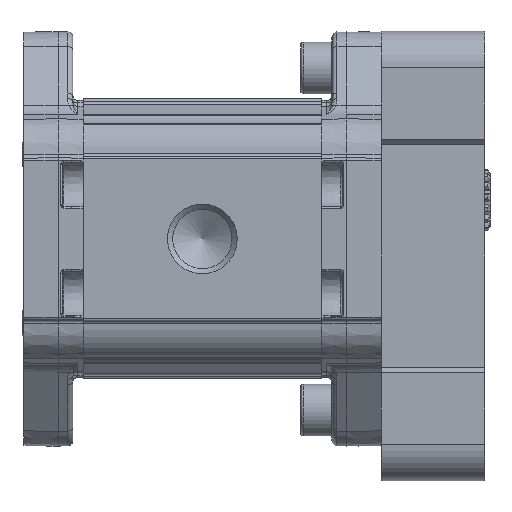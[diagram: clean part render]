
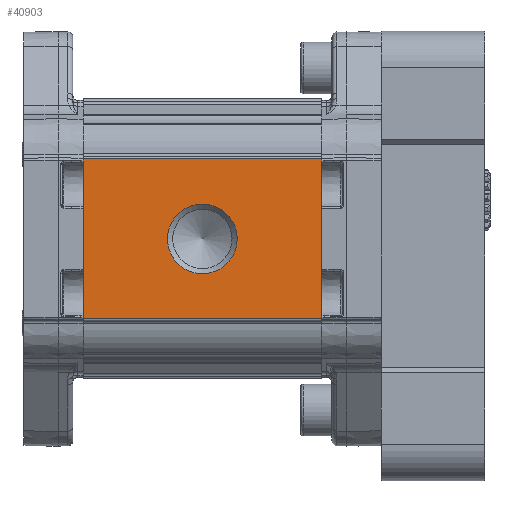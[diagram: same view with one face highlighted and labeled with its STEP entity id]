
A CAD part, left-side view. The second image highlights one B-rep face of the part: STEP entity #40903.
In plain terms, the highlighted planar face has unit normal (-1, 0, 0) as drawn and (1, 0, 0) by its records, which use the part's own axes.
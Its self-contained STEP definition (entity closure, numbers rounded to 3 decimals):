
#2793=LINE('',#75756,#4175);
#2794=LINE('',#75760,#4176);
#2795=LINE('',#75762,#4177);
#2796=LINE('',#75764,#4178);
#4175=VECTOR('',#49731,1000.);
#4176=VECTOR('',#49736,1000.);
#4177=VECTOR('',#49737,1000.);
#4178=VECTOR('',#49738,1000.);
#10158=ORIENTED_EDGE('',*,*,#16360,.T.);
#10159=ORIENTED_EDGE('',*,*,#16361,.F.);
#10160=ORIENTED_EDGE('',*,*,#16359,.F.);
#10161=ORIENTED_EDGE('',*,*,#16362,.T.);
#10162=ORIENTED_EDGE('',*,*,#16363,.T.);
#16359=EDGE_CURVE('',#19763,#19762,#2793,.T.);
#16360=EDGE_CURVE('',#19764,#19764,#21786,.F.);
#16361=EDGE_CURVE('',#19762,#19765,#2794,.T.);
#16362=EDGE_CURVE('',#19763,#19766,#2795,.T.);
#16363=EDGE_CURVE('',#19766,#19765,#2796,.T.);
#19762=VERTEX_POINT('',#75753);
#19763=VERTEX_POINT('',#75755);
#19764=VERTEX_POINT('',#75759);
#19765=VERTEX_POINT('',#75761);
#19766=VERTEX_POINT('',#75763);
#21786=CIRCLE('',#43640,6.723);
#23591=EDGE_LOOP('',(#10158));
#23592=EDGE_LOOP('',(#10159,#10160,#10161,#10162));
#25753=FACE_BOUND('',#23591,.T.);
#25754=FACE_BOUND('',#23592,.T.);
#26989=PLANE('',#43639);
#40903=ADVANCED_FACE('',(#25753,#25754),#26989,.T.);
#43639=AXIS2_PLACEMENT_3D('',#75757,#49732,#49733);
#43640=AXIS2_PLACEMENT_3D('',#75758,#49734,#49735);
#49731=DIRECTION('',(0.,-1.,0.));
#49732=DIRECTION('',(1.,0.,0.));
#49733=DIRECTION('',(0.,0.,-1.));
#49734=DIRECTION('',(1.,0.,0.));
#49735=DIRECTION('',(0.,0.,-1.));
#49736=DIRECTION('',(0.,0.,1.));
#49737=DIRECTION('',(0.,0.,1.));
#49738=DIRECTION('',(0.,-1.,0.));
#75753=CARTESIAN_POINT('',(25.,0.,-15.418));
#75755=CARTESIAN_POINT('',(25.,46.,-15.418));
#75756=CARTESIAN_POINT('',(25.,46.,-15.418));
#75757=CARTESIAN_POINT('',(25.,46.,-15.418));
#75758=CARTESIAN_POINT('',(25.,23.,0.));
#75759=CARTESIAN_POINT('',(25.,23.,-6.722));
#75760=CARTESIAN_POINT('',(25.,0.,-15.418));
#75761=CARTESIAN_POINT('',(25.,0.,15.418));
#75762=CARTESIAN_POINT('',(25.,46.,-15.418));
#75763=CARTESIAN_POINT('',(25.,46.,15.418));
#75764=CARTESIAN_POINT('',(25.,46.,15.418));
